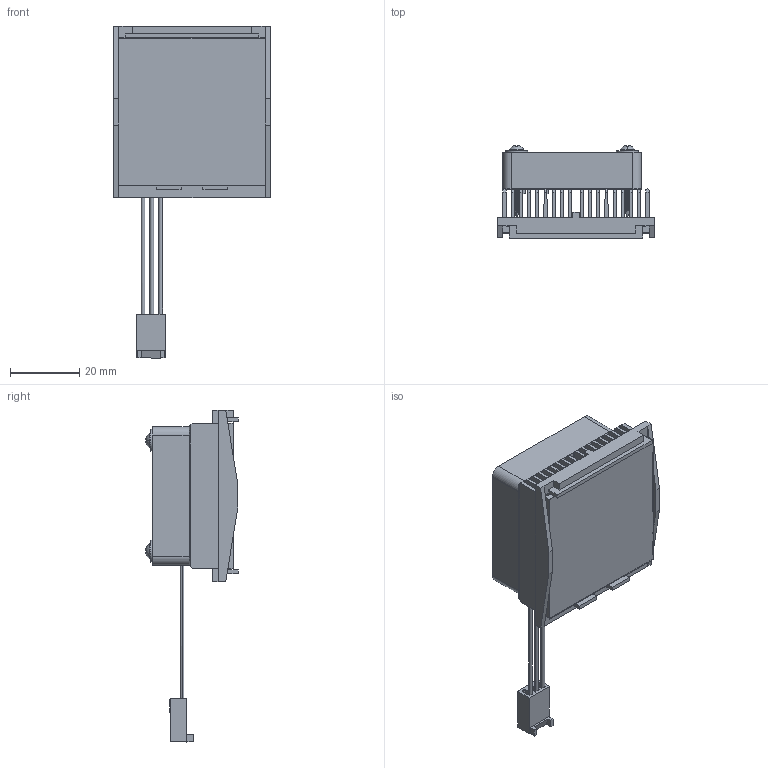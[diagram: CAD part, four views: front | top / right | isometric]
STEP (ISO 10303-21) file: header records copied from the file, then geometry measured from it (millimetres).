
FILE_DESCRIPTION (( 'STEP AP214' ), '1' );
FILE_NAME ('FJ42.5-1.7+BU.STEP', '2023-03-08T17:50:33', ( '' ), ( '' ), 'SwSTEP 2.0', 'SolidWorks 2020', '' );
FILE_SCHEMA (( 'AUTOMOTIVE_DESIGN' ));
Length unit declared in the file: millimetre
Products named in the file (1): FJ42.5-1.7+BU
Bounding box: 45.2 x 26.7 x 95.92 mm (x, y, z)
Volume: 20937 mm3; surface area: 35937.2 mm2
Topology: 12 solids, 12 shells, 1043 faces, 3035 edges, 2016 vertices
Faces by surface type: cylinder 448, plane 349, bspline 194, cone 36, sphere 8, torus 8
Entity records: 56903 total; most frequent: CARTESIAN_POINT 21523, ORIENTED_EDGE 6070, DIRECTION 3895, EDGE_CURVE 3035, VERTEX_POINT 2016, LINE 1471, VECTOR 1471, AXIS2_PLACEMENT_3D 1212
